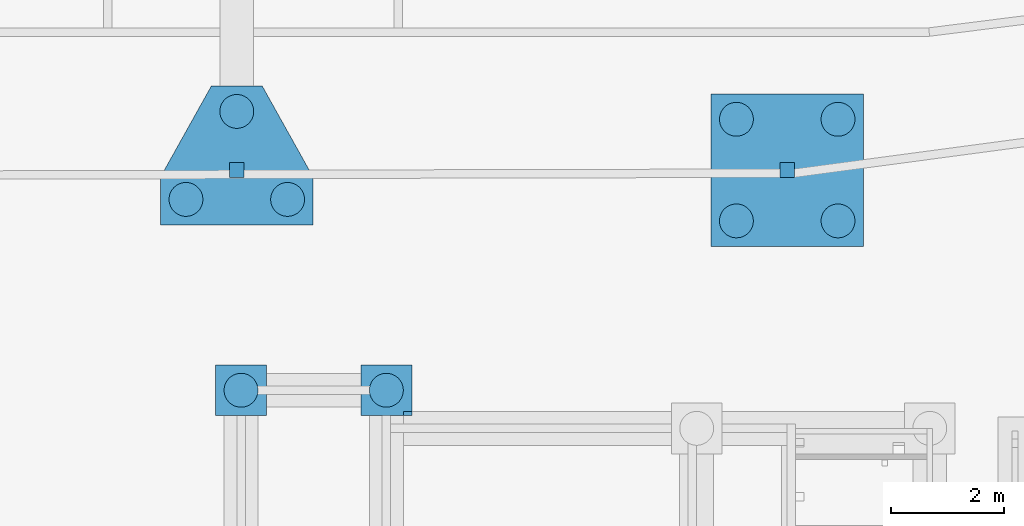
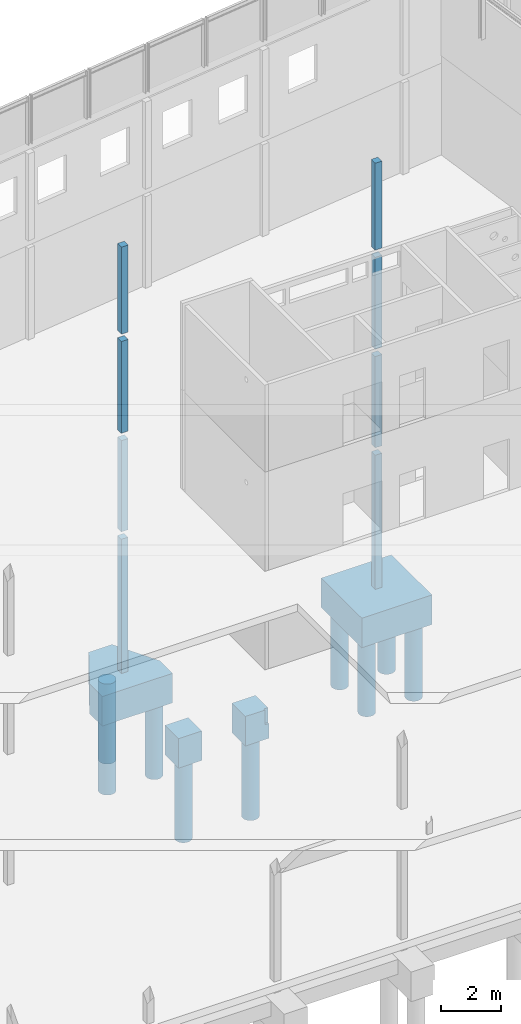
# One storey, part 52 of 82: 21 columns.
"""IFC2X3 building model written with IfcOpenShell, lengths in millimetres."""

import ifcopenshell
import ifcopenshell.guid

model = None  # the IFC model being written
_history = None  # IfcOwnerHistory: only IFC2X3 demands one
_inside = {}  # id of a spatial element -> (the spatial element, [elements in it])
_under = {}  # id of a project, library or spatial element -> (it, [spatial elements below it])
_declared = {}  # id of a project -> (the project, [libraries it declares])
_typed = {}  # id of a type object -> (the type object, [elements of that type])
_made_of = {}  # id of a material, layer set ... -> (it, [elements and type objects made of it])


def new_model(schema):
    """Start an empty IFC model of exactly this schema.

    Asked for "IFC4X3", IfcOpenShell would pick the latest addendum, in which some entities
    have other attributes; the version numbers below select the first issue.
    IFC2X3 requires an IfcOwnerHistory on every rooted entity: one is made here for all.
    """
    global model, _history
    if schema == "IFC4X3":
        model = ifcopenshell.file(schema_version=(4, 3, 0, 0))
    else:
        model = ifcopenshell.file(schema=schema)
    _inside.clear()
    _under.clear()
    _declared.clear()
    _typed.clear()
    _made_of.clear()
    _history = None
    if model.schema == "IFC2X3":
        org = make("IfcOrganization", Name="unknown")
        user = make(
            "IfcPersonAndOrganization",
            ThePerson=make("IfcPerson", FamilyName="unknown"),
            TheOrganization=org,
        )
        app = make(
            "IfcApplication",
            ApplicationDeveloper=org,
            Version="unknown",
            ApplicationFullName="unknown",
            ApplicationIdentifier="unknown",
        )
        _history = make(
            "IfcOwnerHistory",
            OwningUser=user,
            OwningApplication=app,
            ChangeAction="ADDED",
            CreationDate=0,
        )
    return model


def make(cls, **values):
    """One entity of the class cls with the attributes given. An attribute that is None is left unset."""
    return model.create_entity(
        cls, **{name: value for name, value in values.items() if value is not None}
    )


def rooted(cls, **values):
    """An entity with a GlobalId (a new one), such as an element, a storey or a relation."""
    return make(cls, GlobalId=ifcopenshell.guid.new(), OwnerHistory=_history, **values)


def si_unit(unit_type, name, prefix=None):
    """IfcSIUnit, for example si_unit("LENGTHUNIT", "METRE", prefix="MILLI")."""
    return make("IfcSIUnit", UnitType=unit_type, Prefix=prefix, Name=name)


def assignment(units):
    """IfcUnitAssignment: the units of a project."""
    return None if units is None else make("IfcUnitAssignment", Units=units)


def point(xyz):
    """IfcCartesianPoint."""
    return None if xyz is None else make("IfcCartesianPoint", Coordinates=xyz)


def direction(xyz):
    """IfcDirection."""
    return None if xyz is None else make("IfcDirection", DirectionRatios=xyz)


def frame(location, z_axis=None, x_axis=None):
    """IfcAxis2Placement3D, a coordinate frame: its origin and axes. An axis left out is left unset."""
    return make(
        "IfcAxis2Placement3D",
        Location=point(location),
        Axis=direction(z_axis),
        RefDirection=direction(x_axis),
    )


def frame_2d(location, x_axis=None):
    """IfcAxis2Placement2D, a coordinate frame in the plane: its origin and x axis."""
    return make(
        "IfcAxis2Placement2D", Location=point(location), RefDirection=direction(x_axis)
    )


def origin_with_axes():
    """The frame at (0, 0, 0) with the z axis (0, 0, 1) and the x axis (1, 0, 0) written out."""
    return frame((0.0, 0.0, 0.0), z_axis=(0.0, 0.0, 1.0), x_axis=(1.0, 0.0, 0.0))


def place(relative_to, where):
    """IfcLocalPlacement: puts the frame where relative to a parent placement (None: the world)."""
    return make(
        "IfcLocalPlacement", PlacementRelTo=relative_to, RelativePlacement=where
    )


def context(
    kind, dimensions, precision=None, world=None, true_north=None, identifier=None
):
    """IfcGeometricRepresentationContext, for example the 3D "Model" context."""
    return make(
        "IfcGeometricRepresentationContext",
        ContextIdentifier=identifier,
        ContextType=kind,
        CoordinateSpaceDimension=dimensions,
        Precision=precision,
        WorldCoordinateSystem=world,
        TrueNorth=true_north,
    )


def subcontext(parent, identifier, kind, view, scale=None):
    """IfcGeometricRepresentationSubContext, for example "Body" below "Model"."""
    return make(
        "IfcGeometricRepresentationSubContext",
        ContextIdentifier=identifier,
        ContextType=kind,
        ParentContext=parent,
        TargetScale=scale,
        TargetView=view,
    )


def project(units=None, contexts=None):
    """IfcProject with its units and contexts."""
    return rooted(
        "IfcProject",
        Name="project",
        RepresentationContexts=contexts,
        UnitsInContext=assignment(units),
    )


def spatial(cls, under=None, at=None, **own):
    """A site, building, storey or space (cls), placed at a placement, below another one or the project."""
    s = rooted(cls, ObjectPlacement=at, **own)
    if under is not None:
        _under.setdefault(under.id(), (under, []))[1].append(s)
    return s


def polyline(points):
    """IfcPolyline through the points."""
    return make("IfcPolyline", Points=[point(p) for p in points])


def profile(cls, at=None, kind="AREA", **sizes):
    """A parametric profile (cls). Its sizes go by their IFC names, for example OverallWidth=200.0."""
    return make(cls, ProfileType=kind, Position=at, **sizes)


def rectangle(**sizes):
    """IfcRectangleProfileDef."""
    return profile("IfcRectangleProfileDef", **sizes)


def circle(**sizes):
    """IfcCircleProfileDef."""
    return profile("IfcCircleProfileDef", **sizes)


def outline(outer, holes=None, kind="AREA"):
    """IfcArbitraryClosedProfileDef: a profile drawn as a closed curve; with holes, ...WithVoids."""
    if holes is None:
        return make("IfcArbitraryClosedProfileDef", ProfileType=kind, OuterCurve=outer)
    return make(
        "IfcArbitraryProfileDefWithVoids",
        ProfileType=kind,
        OuterCurve=outer,
        InnerCurves=holes,
    )


def extrude(swept, where, along, depth):
    """IfcExtrudedAreaSolid: the profile swept, set in the frame where, extruded along a direction by depth."""
    return make(
        "IfcExtrudedAreaSolid",
        SweptArea=swept,
        Position=where,
        ExtrudedDirection=direction(along),
        Depth=depth,
    )


def boolean(op, a, b):
    """IfcBooleanResult of two solids."""
    return make("IfcBooleanResult", Operator=op, FirstOperand=a, SecondOperand=b)


def shape(context_of_items, identifier, shape_type, items):
    """IfcShapeRepresentation: the items that make up one representation, for example the "Body"."""
    return make(
        "IfcShapeRepresentation",
        ContextOfItems=context_of_items,
        RepresentationIdentifier=identifier,
        RepresentationType=shape_type,
        Items=items,
    )


def material(Name=None, Category=None):
    """IfcMaterial."""
    return make("IfcMaterial", Name=Name, Category=Category)


def made_of(thing, what):
    """Note that an element or type object is made of a material, layer set ...; save() writes the relation."""
    if what is not None:
        _made_of.setdefault(what.id(), (what, []))[1].append(thing)
    return thing


def type_object(cls, material=None, **own):
    """A type object (cls), such as IfcWallType, which elements share."""
    return made_of(rooted(cls, **own), material)


def element(
    cls,
    number,
    at=None,
    inside=None,
    cuts=None,
    type_object=None,
    material=None,
    context=None,
    identifier="Body",
    shape_type=None,
    held_by="IfcProductDefinitionShape",
    body=None,
    shapes=None,
    **own,
):
    """One element of the class cls, such as IfcWall. Its Tag is "e" and its number.

    at: its placement. inside: the storey or other place that contains it. cuts: it is an
    opening in that element (IfcRelVoidsElement). A single representation is given by context,
    identifier, shape_type and body (its items); several are given by shapes. held_by: the class
    of the entity that holds the representations. save() writes the other relations.
    """
    e = rooted(cls, Tag="e%d" % number, ObjectPlacement=at, **own)
    if body is not None:
        shapes = [shape(context, identifier, shape_type, body)]
    if shapes is not None:
        e.Representation = make(held_by, Representations=shapes)
    if inside is not None:
        _inside.setdefault(inside.id(), (inside, []))[1].append(e)
    if cuts is not None:
        rooted(
            "IfcRelVoidsElement", RelatingBuildingElement=cuts, RelatedOpeningElement=e
        )
    if type_object is not None:
        _typed.setdefault(type_object.id(), (type_object, []))[1].append(e)
    return made_of(e, material)


def aggregate(whole, parts):
    """IfcRelAggregates: a whole, such as a stair, and the parts it consists of."""
    return rooted("IfcRelAggregates", RelatingObject=whole, RelatedObjects=parts)


def save(model, path):
    """Write the relations noted so far, then the file.

    IfcRelAggregates (storeys below a building ...), IfcRelContainedInSpatialStructure (elements
    in a storey), IfcRelDefinesByType, IfcRelAssociatesMaterial and IfcRelDeclares: one each for
    every whole, place, type object, material and project.
    """
    for whole, parts in _under.values():
        aggregate(whole, parts)
    for where, things in _inside.values():
        rooted(
            "IfcRelContainedInSpatialStructure",
            RelatedElements=things,
            RelatingStructure=where,
        )
    for kind, things in _typed.values():
        rooted("IfcRelDefinesByType", RelatedObjects=things, RelatingType=kind)
    for what, things in _made_of.values():
        rooted("IfcRelAssociatesMaterial", RelatedObjects=things, RelatingMaterial=what)
    for by, libraries in _declared.values():
        rooted("IfcRelDeclares", RelatingContext=by, RelatedDefinitions=libraries)
    model.write(path)


model = new_model("IFC2X3")

# Units and contexts
model_context = context("Model", 3, precision=1e-05, world=origin_with_axes())
body_context = subcontext(model_context, "Body", "Model", "MODEL_VIEW")
ifc_project = project(units=[si_unit("LENGTHUNIT", "METRE", prefix="MILLI"), si_unit("AREAUNIT", "SQUARE_METRE"), si_unit("VOLUMEUNIT", "CUBIC_METRE"), si_unit("MASSUNIT", "GRAM", prefix="KILO"), si_unit("TIMEUNIT", "SECOND"), si_unit("PLANEANGLEUNIT", "RADIAN"), si_unit("SOLIDANGLEUNIT", "STERADIAN"), si_unit("THERMODYNAMICTEMPERATUREUNIT", "DEGREE_CELSIUS"), si_unit("LUMINOUSINTENSITYUNIT", "LUMEN")], contexts=[model_context])

# Site, building, storey
site_placement = place(None, origin_with_axes())
site = spatial("IfcSite", under=ifc_project, at=site_placement, Name="Undefined", CompositionType="ELEMENT")
building_placement = place(site_placement, origin_with_axes())
building = spatial("IfcBuilding", under=site, at=building_placement, Name="Undefined", CompositionType="ELEMENT")
storey_placement = place(building_placement, origin_with_axes())
storey = spatial("IfcBuildingStorey", under=building, at=storey_placement, Name="Undefined", CompositionType="ELEMENT", Elevation=0.0)

# Columns
ifc_material_1 = material(Name="CONCRETE/C25/30")
column_type_1 = type_object("IfcColumnType", Name="260*260", PredefinedType="NOTDEFINED")
for number, where, z_axis, x_axis, name in (
    (1, (47099.9984740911, 18599.9998778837, 13330.0), (0.0, 0.0, 1.0), (1.0, 0.0, 0.0), "POTEAU"),
    (2, (56849.9984740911, 18599.9998778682, 13330.0), (0.0, 0.0, 1.0), (1.0, 0.0, 0.0), "POTEAU"),
):
    element("IfcColumn", number, at=place(storey_placement, frame(where, z_axis=z_axis, x_axis=x_axis)), inside=storey, type_object=column_type_1, material=ifc_material_1, Name=name, ObjectType="260*260", context=body_context, shape_type="SweptSolid", body=[
        extrude(rectangle(XDim=260.0, YDim=260.0, at=frame_2d((5.17284206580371e-08, 4.49290382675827e-10), x_axis=(1.0, 0.0))), frame((0.0, 0.0, 3529.99999999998), z_axis=(0.0, -6.50000002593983e-08, -0.999999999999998), x_axis=(-1.0, 0.0, 0.0)), (0.0, 0.0, 1.0), 3530.0),
    ])
for number, where, z_axis, x_axis, name in (
    (3, (47099.9984740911, 18599.9998778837, 9305.0), (0.0, 0.0, 1.0), (1.0, 0.0, 0.0), "POTEAU"),
    (4, (56849.9984740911, 18599.9998778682, 9305.0), (0.0, 0.0, 1.0), (1.0, 0.0, 0.0), "POTEAU"),
):
    element("IfcColumn", number, at=place(storey_placement, frame(where, z_axis=z_axis, x_axis=x_axis)), inside=storey, type_object=column_type_1, material=ifc_material_1, Name=name, ObjectType="260*260", context=body_context, shape_type="SweptSolid", body=[
        extrude(rectangle(XDim=260.0, YDim=260.0, at=frame_2d((5.17284206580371e-08, 4.49290382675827e-10), x_axis=(1.0, 0.0))), frame((0.0, 0.0, 3725.0), z_axis=(0.0, -6.50000002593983e-08, -0.999999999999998), x_axis=(-1.0, 0.0, 0.0)), (0.0, 0.0, 1.0), 3725.0),
    ])
for number, where, z_axis, x_axis, name in (
    (5, (47099.9984740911, 18599.9998778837, 5300.0), (0.0, 0.0, 1.0), (1.0, 0.0, 0.0), "POTEAU"),
    (6, (56849.9984740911, 18599.9998778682, 5300.0), (0.0, 0.0, 1.0), (1.0, 0.0, 0.0), "POTEAU"),
):
    element("IfcColumn", number, at=place(storey_placement, frame(where, z_axis=z_axis, x_axis=x_axis)), inside=storey, type_object=column_type_1, material=ifc_material_1, Name=name, ObjectType="260*260", context=body_context, shape_type="SweptSolid", body=[
        extrude(rectangle(XDim=260.0, YDim=260.0, at=frame_2d((5.17284206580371e-08, 4.49290382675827e-10), x_axis=(1.0, 0.0))), frame((0.0, 0.0, 3705.00000000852), z_axis=(0.0, -6.50000002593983e-08, -0.999999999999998), x_axis=(-1.0, 0.0, 0.0)), (0.0, 0.0, 1.0), 3705.0),
    ])
for number, where, z_axis, x_axis, name in (
    (7, (47099.9984740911, 18599.9998778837, -449.999511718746), (0.0, 0.0, 1.0), (1.0, 0.0, 0.0), "POTEAU"),
    (8, (56849.9984740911, 18599.9998778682, -449.999511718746), (0.0, 0.0, 1.0), (1.0, 0.0, 0.0), "POTEAU"),
):
    element("IfcColumn", number, at=place(storey_placement, frame(where, z_axis=z_axis, x_axis=x_axis)), inside=storey, type_object=column_type_1, material=ifc_material_1, Name=name, ObjectType="260*260", context=body_context, shape_type="SweptSolid", body=[
        extrude(rectangle(XDim=260.0, YDim=260.0, at=frame_2d((5.17284206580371e-08, 4.49290382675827e-10), x_axis=(1.0, 0.0))), frame((0.0, 0.0, 5449.9995117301), z_axis=(0.0, -6.50000002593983e-08, -0.999999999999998), x_axis=(-1.0, 0.0, 0.0)), (0.0, 0.0, 1.0), 5450.0),
    ])
ifc_material_2 = material(Name="CONCRETE/C30/37")
column_type_2 = type_object("IfcColumnType", Name="1200*2460", PredefinedType="NOTDEFINED")
column_1_placement = place(storey_placement, frame((46649.9997110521, 20090.400000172, -1050.00146572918), z_axis=(0.0, 0.0, 1.0), x_axis=(-0.487942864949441, -0.872875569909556, 0.0)))
element("IfcColumn", 9, at=column_1_placement, inside=storey, type_object=column_type_2, material=ifc_material_2, Name="SEMELLE", ObjectType="1200*2460", context=body_context, shape_type="SweptSolid", body=[
    extrude(outline(polyline([(5.17284206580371e-08, 4.49290382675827e-10), (1844.47827153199, -8.99672158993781e-09), (2586.42260747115, 414.751434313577), (1268.97668460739, 2771.51538083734), (527.032531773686, 2356.76416013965), (-439.148559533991, 785.588012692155), (5.17284206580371e-08, 4.49290382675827e-10)])), frame((0.0, 0.0, -600.0), z_axis=(0.0, 0.0, 1.0), x_axis=(1.0, 0.0, 0.0)), (0.0, 0.0, 1.0), 1200.0),
])
column_type_3 = type_object("IfcColumnType", Name="900*900", PredefinedType="NOTDEFINED")
column_2_placement = place(storey_placement, frame((49749.9992130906, 14700.0005713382, -1649.97), z_axis=(0.0, 0.0, 1.0), x_axis=(1.0, 0.0, 0.0)))
element("IfcColumn", 10, at=column_2_placement, inside=storey, type_object=column_type_3, material=ifc_material_2, Name="SEMELLE", ObjectType="900*900", context=body_context, shape_type="CSG", body=[
    boolean("DIFFERENCE", extrude(rectangle(XDim=900.0, YDim=900.0, at=frame_2d((5.17284206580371e-08, 4.49290382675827e-10), x_axis=(1.0, 0.0))), frame((0.0, 0.0, 1199.97), z_axis=(0.0, -6.50000002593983e-08, -0.999999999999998), x_axis=(2.09600000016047e-06, -0.999999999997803, 0.0)), (0.0, 0.0, 1.0), 1200.0), extrude(rectangle(XDim=600.0, YDim=600.0, at=frame_2d((5.17284206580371e-08, 4.49290382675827e-10), x_axis=(1.0, 0.0))), frame((300.000019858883, -675.004498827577, 899.969999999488), z_axis=(1.0, 0.0, 0.0), x_axis=(0.0, 1.0, 0.0)), (0.0, 0.0, 1.0), 4746.4)),
])
column_3_placement = place(storey_placement, frame((47175.001053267, 14700.0005712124, -1649.97), z_axis=(0.0, 0.0, 1.0), x_axis=(1.0, 0.0, 0.0)))
element("IfcColumn", 11, at=column_3_placement, inside=storey, type_object=column_type_3, material=ifc_material_2, Name="SEMELLE", ObjectType="900*900", context=body_context, shape_type="SweptSolid", body=[
    extrude(rectangle(XDim=900.0, YDim=900.0, at=frame_2d((5.17284206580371e-08, 4.49290382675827e-10), x_axis=(1.0, 0.0))), frame((0.0, 0.0, 1199.97), z_axis=(0.0, -6.50000002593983e-08, -0.999999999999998), x_axis=(2.09600000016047e-06, -0.999999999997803, 0.0)), (0.0, 0.0, 1.0), 1200.0),
])
column_type_4 = type_object("IfcColumnType", Name="2700*2700", PredefinedType="NOTDEFINED")
column_4_placement = place(storey_placement, frame((56850.0020748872, 18600.0011882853, -1650.0), z_axis=(0.0, 0.0, 1.0), x_axis=(1.0, 0.0, 0.0)))
element("IfcColumn", 12, at=column_4_placement, inside=storey, type_object=column_type_4, material=ifc_material_2, Name="SEMELLE", ObjectType="2700*2700", context=body_context, shape_type="SweptSolid", body=[
    extrude(rectangle(XDim=2700.0, YDim=2700.0, at=frame_2d((5.17284206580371e-08, 4.49290382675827e-10), x_axis=(1.0, 0.0))), frame((0.0, 0.0, 1200.0), z_axis=(0.0, -6.50000002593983e-08, -0.999999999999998), x_axis=(-1.0, 0.0, 0.0)), (0.0, 0.0, 1.0), 1200.0),
])
column_type_5 = type_object("IfcColumnType", Name="D600", PredefinedType="NOTDEFINED")
for number, where, z_axis, x_axis in (
    (13, (47175.0010532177, 14700.0005712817, -4899.97000062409), (0.0, 0.0, 1.0), (1.0, 0.0, 0.0)),
    (14, (49749.9992131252, 14700.0005714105, -4899.97000062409), (0.0, 0.0, 1.0), (1.0, 0.0, 0.0)),
):
    element("IfcColumn", number, at=place(storey_placement, frame(where, z_axis=z_axis, x_axis=x_axis)), inside=storey, type_object=column_type_5, material=ifc_material_1, Name="PIEU", ObjectType="D600", context=body_context, shape_type="SweptSolid", body=[
        extrude(circle(Radius=300.0, at=frame_2d((5.17284206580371e-08, 4.49290382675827e-10), x_axis=(1.0, 0.0))), frame((0.0, 0.0, 3250.0), z_axis=(0.0, -6.50000002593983e-08, -0.999999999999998), x_axis=(-0.132256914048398, 0.991215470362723, 0.0)), (0.0, 0.0, 1.0), 3250.0),
    ])
for number, where, z_axis, x_axis in (
    (15, (47999.9999999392, 18080.3999999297, -4675.0), (0.0, 0.0, 1.0), (1.0, 0.0, 0.0)),
    (16, (57749.9999999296, 19499.9999999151, -4675.0), (0.0, 0.0, 1.0), (1.0, 0.0, 0.0)),
    (17, (55949.9999999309, 19499.9999999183, -4675.0), (0.0, 0.0, 1.0), (1.0, 0.0, 0.0)),
    (18, (57749.9999999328, 17699.9999999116, -4675.0), (0.0, 0.0, 1.0), (1.0, 0.0, 0.0)),
    (19, (55949.9999999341, 17699.9999999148, -4675.0), (0.0, 0.0, 1.0), (1.0, 0.0, 0.0)),
    (20, (46199.9999999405, 18080.3999999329, -4675.0), (0.0, 0.0, 1.0), (1.0, 0.0, 0.0)),
    (21, (47099.9999999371, 19639.1999999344, -4675.0), (0.0, 0.0, 1.0), (1.0, 0.0, 0.0)),
):
    element("IfcColumn", number, at=place(storey_placement, frame(where, z_axis=z_axis, x_axis=x_axis)), inside=storey, type_object=column_type_5, material=ifc_material_1, Name="PIEU", ObjectType="D600", context=body_context, shape_type="SweptSolid", body=[
        extrude(circle(Radius=300.0, at=frame_2d((5.17284206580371e-08, 4.49290382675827e-10), x_axis=(1.0, 0.0))), frame((0.0, 0.0, 3250.0), z_axis=(0.0, -6.50000002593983e-08, -0.999999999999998), x_axis=(-1.0, 0.0, 0.0)), (0.0, 0.0, 1.0), 3250.0),
    ])

save(model, "model.ifc")
